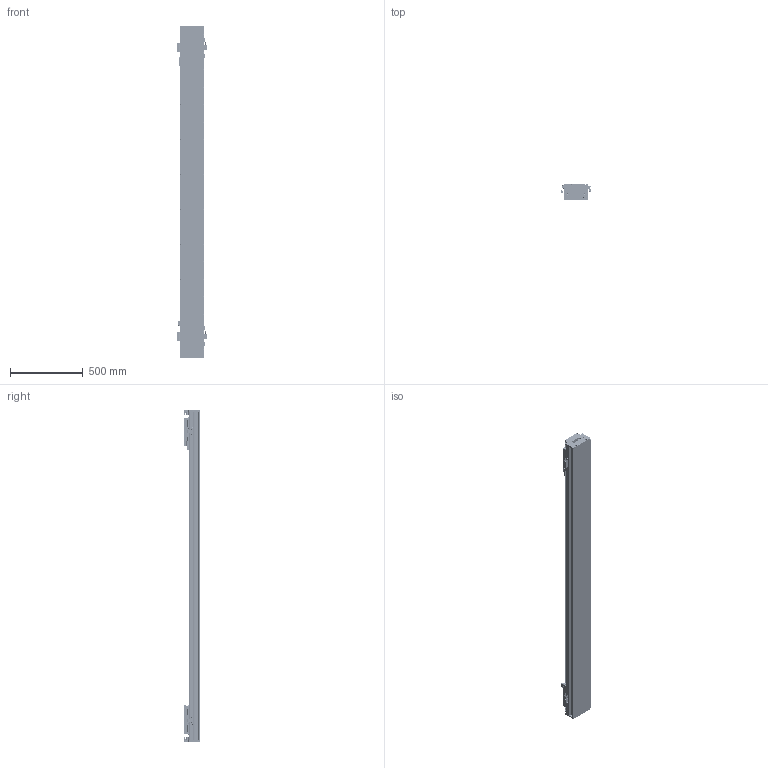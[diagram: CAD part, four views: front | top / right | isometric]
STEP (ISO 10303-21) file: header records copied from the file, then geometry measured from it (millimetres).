
FILE_DESCRIPTION (( 'STEP AP203' ), '1' );
FILE_NAME ('DKW168-2×C2-W090（T1760-L005-0.2）.STEP', '2022-03-08T01:45:25', ( '微软用户' ), ( '微软中国' ), 'SwSTEP 2.0', 'SolidWorks 2018', '' );
FILE_SCHEMA (( 'CONFIG_CONTROL_DESIGN' ));
Length unit declared in the file: millimetre
Products named in the file (24): 10392-0001-004-00 詩湍揤輸; DKW168-2×C2-W090（T1760-L005-0.2）; 嫖萇羲壽蚾饜极; 10279-0001-006-00 嶺輸菜輸; DKW-SG-GYP-H-00 嫖萇覜茼え; DKW168 单轴模组-拉钢带组件; 10392-0001-001-00 菁釱; 嫖萇羲壽蚾饜极A; CKM01-W090-TRL280; MSA20絳寢; C2-W090_00; DKW168-RU-DTJ-00 RU2黍杅芛盓殤; 10279-0001-003-00 傷啣; DKW168-HXJ-ZJ-00 笢潔滅袉砎蝶; RUS嫖掑喜; DKW168-HXJ-00 遣喳砎蝶; DKW-GYP-ZJ-00 笢潔嫖萇覜茼え; Ru2; 10392-0001-002-00 詩湍裔啣; DKW-KGZ-ZJ-00 中间光电开关支架; pm-y65; 10392-0001-003-00 詩湍嶺輸; EE_SX674A; 10980-0001-003-00 嫖萇羲壽嘐隅釱
Assembly tree (39 placements, depth 3):
  DKW168-2×C2-W090（T1760-L005-0.2）
    10392-0001-001-00 菁釱
    MSA20絳寢  x2
    DKW168 单轴模组-拉钢带组件
      10279-0001-003-00 傷啣  x2
      DKW168-HXJ-00 遣喳砎蝶  x4
      10392-0001-002-00 詩湍裔啣
      10392-0001-003-00 詩湍嶺輸  x2
      10392-0001-004-00 詩湍揤輸  x2
      10279-0001-006-00 嶺輸菜輸  x2
    CKM01-W090-TRL280
    DKW168-RU-DTJ-00 RU2黍杅芛盓殤  x2
    RUS嫖掑喜
    Ru2  x2
    嫖萇羲壽蚾饜极
      pm-y65  x2
      10980-0001-003-00 嫖萇羲壽嘐隅釱
    DKW-SG-GYP-H-00 嫖萇覜茼え  x2
    嫖萇羲壽蚾饜极A
      pm-y65  x2
      10980-0001-003-00 嫖萇羲壽嘐隅釱
    C2-W090_00  x2
    DKW168-HXJ-ZJ-00 笢潔滅袉砎蝶
    DKW-GYP-ZJ-00 笢潔嫖萇覜茼え
    DKW-KGZ-ZJ-00 中间光电开关支架
    EE_SX674A
Bounding box: 202.3 x 109 x 2280 mm (x, y, z)
Volume: 15781399.5 mm3; surface area: 4172802.4 mm2
Topology: 74 solids, 172 shells, 7558 faces, 19592 edges, 12521 vertices
Faces by surface type: plane 4084, cylinder 2104, cone 748, bspline 558, torus 32, sphere 32
Entity records: 146621 total; most frequent: CARTESIAN_POINT 46243, ORIENTED_EDGE 20363, DIRECTION 19437, EDGE_CURVE 10222, VERTEX_POINT 6632, AXIS2_PLACEMENT_3D 6515, LINE 6407, VECTOR 6407
